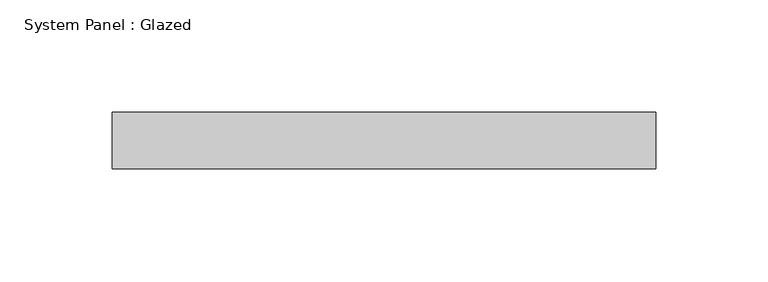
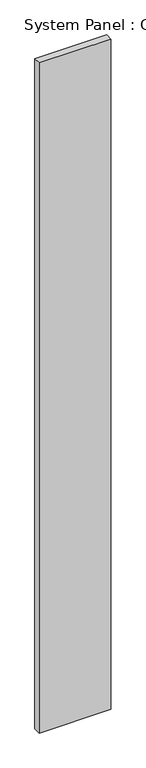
"""IFC4 building model written with IfcOpenShell, lengths in millimetres: plate geometry, System Panel : Glazed."""

from ifc_helpers import new_model, si_unit, origin, origin_with_axes, place, context, project, spatial, polyline, outline, extrude, source, transform, mapped, element, save


def system_panel_glazed_25246cb8(model_context):
    return source(origin(), model_context, "Body", "SweptSolid", [
        extrude(outline(polyline([(120.8787097, -49.5), (-120.8787097, -49.5), (-120.8787097, -24.5), (120.8787097, -24.5), (120.8787097, -49.5)])), origin_with_axes(), (0.0, 0.0, 1.0), 2390.0),
    ])


if __name__ == "__main__":
    model = new_model("IFC4")
    model_context = context("Model", 3, world=origin())
    ifc_project = project(units=[si_unit("LENGTHUNIT", "METRE", prefix="MILLI")], contexts=[model_context])
    site = spatial("IfcSite", under=ifc_project)
    building = spatial("IfcBuilding", under=site)
    placement = place(None, origin())
    system_panel_glazed_shape = system_panel_glazed_25246cb8(model_context)
    element("IfcPlate", 1, ObjectType="System Panel : Glazed", at=placement, inside=building, context=model_context, shape_type="MappedRepresentation", body=[
        mapped(system_panel_glazed_shape, transform((0.0, 0.0, 0.0), x_axis=(1.0, 0.0, 0.0), y_axis=(0.0, 1.0, 0.0), z_axis=(0.0, 0.0, 1.0))),
    ])
    save(model, "model.ifc")
